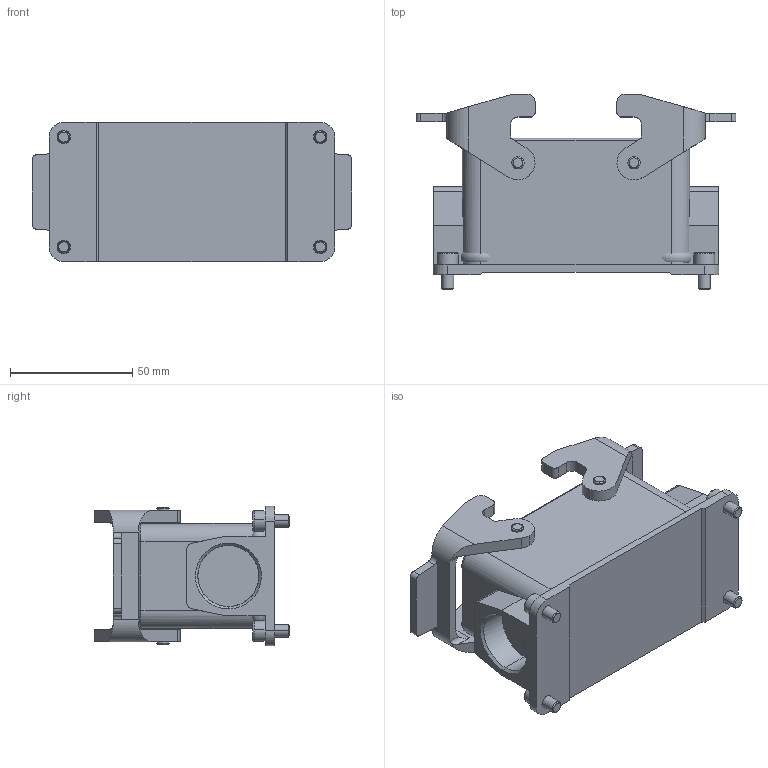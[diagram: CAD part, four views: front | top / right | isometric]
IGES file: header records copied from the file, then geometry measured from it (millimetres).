
Start section: 3D InterOp IGES (Version 25 0 2), Spatial Corp. Copyright (c) 1999-2007.
Global section: file name: E2711_56_16B.igs; native system: Spatial Corp.; preprocessor: 3D InterOp GENERIC/IGES 3.0; author: Noname; organization: Noname; date: 20160920.090122; units: metre
Bounding box: 130.9 x 79.8 x 57 mm (x, y, z)
Volume: 115149.7 mm3; surface area: 59950.6 mm2
Topology: 5 solids, 5 shells, 345 faces, 892 edges, 577 vertices
Faces by surface type: plane 158, cylinder 147, torus 28, cone 10, bspline 2
